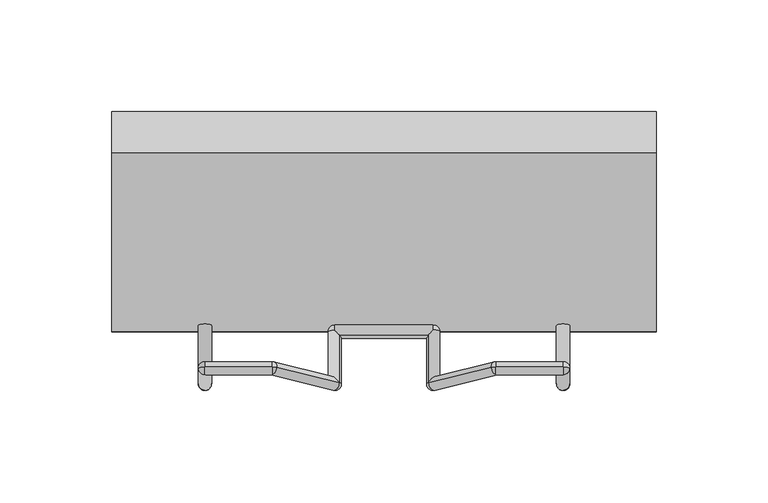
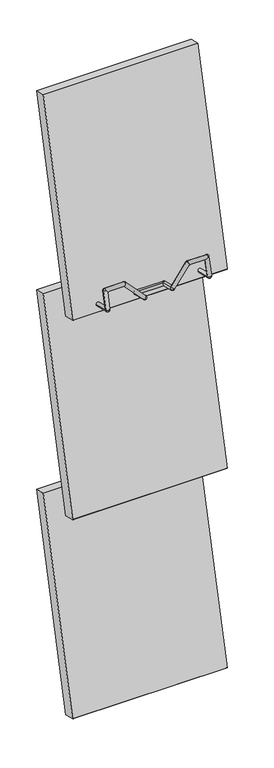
"""IFC4 building model written with IfcOpenShell, lengths in millimetres: furniture geometry, BK Library - Mag-Mag - 1110 - 1 Collum : BK Library - Mag-Mag - 1110 - 1 Collum."""

from ifc_helpers import new_model, si_unit, point, frame, frame_2d, origin, place, context, project, spatial, polyline, circle_curve, ellipse_curve, trimmed, segment, composite_curve, outline, extrude, source, transform, mapped, element, save
from ifc_brep_helpers import plane_surface, cylinder_surface, revolved_surface, advanced_brep


def furniture_2ce81791(model_context):
    return source(origin(), model_context, "Body", "SolidModel", [
        advanced_brep(
        [(-79.9995394, -261.9406341, 782.0660528), (-79.9995394, -264.144767, 785.6912146), (-82.9995394, -261.2301197, 784.9807002), (-82.9995394, -254.3618134, 813.1556247), (-79.9995394, -253.651299, 816.070272), (-79.9995394, -251.4471661, 812.4451102), (-50.0045138, -253.651299, 816.070272), (-47.8464944, -253.8682486, 815.1803088), (-50.0045138, -251.4471661, 812.4451102), (-21.9995394, -264.144767, 785.6912146), (-19.9155642, -261.741221, 782.8840783), (-19.84152, -260.7365549, 787.0053844), (-24.9995394, -237.9129408, 779.2965847), (-21.9995394, -234.9982934, 778.5860702), (-21.9995394, -236.3098837, 776.7607992), (-21.9995394, -238.6234552, 776.3819373), (-24.1575588, -238.4065056, 777.2719005), (22.0004606, -234.9982934, 778.5860702), (25.0004606, -237.9129408, 779.2965847), (24.15848, -238.4065056, 777.2719005), (22.0004606, -238.6234552, 776.3819373), (22.0004606, -236.3098837, 776.7607992), (19.9164855, -261.741221, 782.8840783), (22.0004606, -264.144767, 785.6912146), (19.8424412, -260.7365549, 787.0053844), (47.8474157, -253.8682486, 815.1803088), (50.0054351, -253.651299, 816.070272), (50.0054351, -251.4471661, 812.4451102), (80.0004606, -253.651299, 816.070272), (83.0004606, -254.3618134, 813.1556247), (80.0004606, -251.4471661, 812.4451102), (80.0004606, -264.144767, 785.6912146), (80.0004606, -261.9406341, 782.0660528), (83.0004606, -261.2301197, 784.9807002), (-82.9995394, -225.2828022, 776.2176888), (-76.9995394, -225.2828022, 776.2176888), (-76.9995394, -261.2301197, 784.9807002), (-76.9995394, -255.0723279, 810.2409773), (-79.9995394, -257.2764608, 813.8661391), (-51.2779383, -255.0723279, 810.2409773), (-50.0045138, -257.2764608, 813.8661391), (-24.1575588, -261.7236845, 782.956016), (-19.84152, -239.5159978, 781.8323702), (19.8424412, -239.5159978, 781.8323702), (24.15848, -261.7236845, 782.956016), (51.2788596, -255.0723279, 810.2409773), (50.0054351, -257.2764608, 813.8661391), (77.0004606, -255.0723279, 810.2409773), (80.0004606, -257.2764608, 813.8661391), (77.0004606, -261.2301197, 784.9807002), (83.0004606, -225.2828022, 776.2176888), (77.0004606, -225.2828022, 776.2176888), (22.0004606, -237.2024264, 782.211232), (-21.9995394, -237.2024264, 782.211232)],
        [
            (0, 1, circle_curve(frame((-79.9995394, -261.2301197, 784.9807002), z_axis=(-1.0, 0.0, 0.0), x_axis=(0.0, 0.23683814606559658, 0.9715491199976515)), 3.0)),
            (1, 2, circle_curve(frame((-79.9995394, -261.2301197, 784.9807002), z_axis=(0.0, -0.23683814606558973, -0.9715491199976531), x_axis=(0.0, -0.9715491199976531, 0.23683814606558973)), 3.0)),
            (2, 0, circle_curve(frame((-79.9995394, -261.2301197, 784.9807002), z_axis=(0.0, -0.9715491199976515, 0.2368381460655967), x_axis=(0.0, -0.2368381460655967, -0.9715491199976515)), 3.0)),
            (3, 4, circle_curve(frame((-79.9995394, -254.3618134, 813.1556247), z_axis=(0.0, 0.971549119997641, -0.23683814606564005), x_axis=(1.0, 0.0, 0.0)), 3.0)),
            (4, 5, circle_curve(frame((-79.9995394, -254.3618134, 813.1556247), z_axis=(-1.0, 0.0, 0.0), x_axis=(0.0, 0.23683814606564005, 0.971549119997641)), 3.0)),
            (5, 3, circle_curve(frame((-79.9995394, -254.3618134, 813.1556247), z_axis=(0.0, 0.23683814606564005, 0.971549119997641), x_axis=(-1.0, 0.0, 0.0)), 3.0)),
            (6, 7, circle_curve(frame((-50.0045138, -254.3618134, 813.1556247), z_axis=(0.0, 0.971549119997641, -0.23683814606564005), x_axis=(0.0, -0.23683814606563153, -0.971549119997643)), 3.0)),
            (7, 8, circle_curve(frame((-50.0045138, -254.3618134, 813.1556247), z_axis=(-0.6946583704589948, 0.17036710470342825, 0.6988739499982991), x_axis=(0.7193398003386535, 0.16452160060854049, 0.6748947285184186)), 3.0)),
            (8, 6, circle_curve(frame((-50.0045138, -254.3618134, 813.1556247), z_axis=(1.0, 0.0, 0.0), x_axis=(0.0, 0.23683814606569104, 0.9715491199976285)), 3.0)),
            (9, 10, circle_curve(frame((-21.9995394, -261.2301197, 784.9807002), z_axis=(0.7193398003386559, 0.16452160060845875, 0.6748947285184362), x_axis=(0.0, 0.971549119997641, -0.23683814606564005)), 3.0)),
            (10, 11, circle_curve(frame((-21.9995394, -261.2301197, 784.9807002), z_axis=(0.0, -0.9715491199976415, 0.2368381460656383), x_axis=(0.6946583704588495, -0.17036710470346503, -0.6988739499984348)), 3.0)),
            (11, 9, circle_curve(frame((-21.9995394, -261.2301197, 784.9807002), z_axis=(0.6946583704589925, -0.17036710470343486, -0.6988739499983), x_axis=(0.0, -0.9715491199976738, 0.2368381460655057)), 3.0)),
            (12, 13, circle_curve(frame((-21.9995394, -237.9129408, 779.2965847), z_axis=(0.0, -0.23683814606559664, -0.9715491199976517), x_axis=(-1.0, 0.0, 0.0)), 3.0)),
            (13, 14, circle_curve(frame((-21.9995394, -237.9129408, 779.2965847), z_axis=(-1.0, 0.0, 0.0), x_axis=(0.0, 0.9715491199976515, -0.23683814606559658)), 3.0)),
            (14, 15, circle_curve(frame((-21.9995394, -237.9129408, 779.2965847), z_axis=(-1.0, 0.0, 0.0), x_axis=(0.0, 0.9715491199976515, -0.23683814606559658)), 3.0)),
            (15, 16, circle_curve(frame((-21.9995394, -237.9129408, 779.2965847), z_axis=(0.0, 0.9715491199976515, -0.23683814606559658), x_axis=(-1.0, 0.0, 0.0)), 3.0)),
            (16, 12, circle_curve(frame((-21.9995394, -237.9129408, 779.2965847), z_axis=(0.0, 0.9715491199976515, -0.23683814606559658), x_axis=(-1.0, 0.0, 0.0)), 3.0)),
            (17, 18, circle_curve(frame((22.0004606, -237.9129408, 779.2965847), z_axis=(0.0, -0.23683814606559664, -0.9715491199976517), x_axis=(0.0, -0.971549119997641, 0.23683814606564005)), 3.0)),
            (18, 19, circle_curve(frame((22.0004606, -237.9129408, 779.2965847), z_axis=(0.0, 0.971549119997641, -0.23683814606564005), x_axis=(1.0, 0.0, 0.0)), 3.0)),
            (19, 20, circle_curve(frame((22.0004606, -237.9129408, 779.2965847), z_axis=(0.0, 0.971549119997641, -0.23683814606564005), x_axis=(1.0, 0.0, 0.0)), 3.0)),
            (20, 21, circle_curve(frame((22.0004606, -237.9129408, 779.2965847), z_axis=(1.0, 0.0, 0.0), x_axis=(0.0, 0.9715491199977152, -0.23683814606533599)), 3.0)),
            (21, 17, circle_curve(frame((22.0004606, -237.9129408, 779.2965847), z_axis=(1.0, 0.0, 0.0), x_axis=(0.0, 0.9715491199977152, -0.23683814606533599)), 3.0)),
            (22, 23, circle_curve(frame((22.0004606, -261.2301197, 784.9807002), z_axis=(-0.7193398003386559, 0.16452160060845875, 0.6748947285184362), x_axis=(-0.6946583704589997, -0.17036710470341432, -0.6988739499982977)), 3.0)),
            (23, 24, circle_curve(frame((22.0004606, -261.2301197, 784.9807002), z_axis=(-0.6946583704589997, -0.17036710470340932, -0.6988739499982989), x_axis=(0.0, -0.9715491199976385, 0.23683814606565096)), 3.0)),
            (24, 22, circle_curve(frame((22.0004606, -261.2301197, 784.9807002), z_axis=(-3.5409316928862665e-11, -0.9715491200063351, 0.23683814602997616), x_axis=(-0.6946583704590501, -0.1703671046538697, -0.6988739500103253)), 3.0)),
            (25, 26, circle_curve(frame((50.0054351, -254.3618134, 813.1556247), z_axis=(0.0, 0.971549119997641, -0.23683814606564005), x_axis=(-0.7193398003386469, 0.16452160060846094, 0.6748947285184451)), 3.0)),
            (26, 27, circle_curve(frame((50.0054351, -254.3618134, 813.1556247), z_axis=(-1.0, 0.0, 0.0), x_axis=(0.0, 0.2368381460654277, 0.9715491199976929)), 3.0)),
            (27, 25, circle_curve(frame((50.0054351, -254.3618134, 813.1556247), z_axis=(0.6946583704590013, 0.17036710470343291, 0.6988739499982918), x_axis=(-0.7193398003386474, 0.16452160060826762, 0.6748947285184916)), 3.0)),
            (28, 29, circle_curve(frame((80.0004606, -254.3618134, 813.1556247), z_axis=(0.0, 0.971549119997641, -0.23683814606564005), x_axis=(0.0, 0.23683814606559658, 0.9715491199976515)), 3.0)),
            (29, 30, circle_curve(frame((80.0004606, -254.3618134, 813.1556247), z_axis=(0.0, 0.23683814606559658, 0.9715491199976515), x_axis=(1.0, 0.0, 0.0)), 3.0)),
            (30, 28, circle_curve(frame((80.0004606, -254.3618134, 813.1556247), z_axis=(1.0, 0.0, -2.6767436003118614e-12), x_axis=(2.7551294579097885e-12, 0.23683814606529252, 0.9715491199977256)), 3.0)),
            (31, 32, circle_curve(frame((80.0004606, -261.2301197, 784.9807002), z_axis=(1.0, 0.0, 0.0), x_axis=(0.0, -0.971549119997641, 0.23683814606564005)), 3.0)),
            (32, 33, circle_curve(frame((80.0004606, -261.2301197, 784.9807002), z_axis=(0.0, -0.9715491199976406, 0.23683814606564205), x_axis=(0.0, -0.23683814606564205, -0.9715491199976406)), 3.0)),
            (33, 31, circle_curve(frame((80.0004606, -261.2301197, 784.9807002), z_axis=(0.0, -0.2368381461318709, -0.9715491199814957), x_axis=(0.0, -0.9715491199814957, 0.2368381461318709)), 3.0)),
            (2, 34),
            (34, 35, circle_curve(frame((-79.9995394, -225.2828022, 776.2176888), z_axis=(0.0, -0.9715491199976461, 0.23683814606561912), x_axis=(-1.0, 0.0, 0.0)), 3.0)),
            (35, 36),
            (36, 0, circle_curve(frame((-79.9995394, -261.2301197, 784.9807002), z_axis=(0.0, 0.9715491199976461, -0.23683814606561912), x_axis=(-1.0, 0.0, 0.0)), 3.0)),
            (3, 2),
            (1, 36, circle_curve(frame((-79.9995394, -261.2301197, 784.9807002), z_axis=(0.0, 0.23683814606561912, 0.9715491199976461), x_axis=(-1.0, 0.0, 0.0)), 3.0)),
            (36, 37),
            (37, 38, ellipse_curve(frame((-79.9995394, -254.3618134, 813.1556247), z_axis=(-0.7071067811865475, -0.1674698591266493, -0.6869889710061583), x_axis=(0.7071067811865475, -0.1674698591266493, -0.6869889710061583)), 4.2426407, 3.0)),
            (38, 3, circle_curve(frame((-79.9995394, -254.3618134, 813.1556247), z_axis=(0.0, -0.23683814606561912, -0.9715491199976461), x_axis=(-1.0, 0.0, 0.0)), 3.0)),
            (6, 4),
            (4, 38, circle_curve(frame((-79.9995394, -254.3618134, 813.1556247), z_axis=(1.0, 0.0, 0.0), x_axis=(0.0, 0.23683814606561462, 0.9715491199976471)), 3.0)),
            (37, 39),
            (39, 40, ellipse_curve(frame((-50.0045138, -254.3618134, 813.1556247), z_axis=(-0.9205048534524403, 0.09254003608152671, 0.37961448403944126), x_axis=(-0.3907311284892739, -0.21801066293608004, -0.8943156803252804)), 3.2590811, 3.0)),
            (40, 6, circle_curve(frame((-50.0045138, -254.3618134, 813.1556247), z_axis=(-1.0, 0.0, 0.0), x_axis=(0.0, 0.23683814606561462, 0.9715491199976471)), 3.0)),
            (11, 7),
            (7, 40, circle_curve(frame((-50.0045138, -254.3618134, 813.1556247), z_axis=(0.694658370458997, -0.17036710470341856, -0.6988739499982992), x_axis=(0.7193398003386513, 0.16452160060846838, 0.6748947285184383)), 3.0)),
            (39, 41),
            (41, 9, circle_curve(frame((-21.9995394, -261.2301197, 784.9807002), z_axis=(-0.694658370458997, 0.17036710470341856, 0.6988739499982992), x_axis=(0.7193398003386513, 0.16452160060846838, 0.6748947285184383)), 3.0)),
            (42, 11),
            (10, 41, circle_curve(frame((-21.9995394, -261.2301197, 784.9807002), z_axis=(0.0, 0.9715491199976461, -0.23683814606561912), x_axis=(0.719339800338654, 0.16452160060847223, 0.6748947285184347)), 3.0)),
            (41, 16),
            (15, 42, ellipse_curve(frame((-21.9995394, -237.9129408, 779.2965847), z_axis=(-0.7071067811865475, -0.6869889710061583, 0.1674698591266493), x_axis=(0.7071067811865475, -0.6869889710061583, 0.1674698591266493)), 4.2426407, 3.0)),
            (43, 42),
            (14, 21),
            (20, 43, ellipse_curve(frame((22.0004606, -237.9129408, 779.2965847), z_axis=(-0.7071067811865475, 0.6869889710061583, -0.16746985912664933), x_axis=(-0.7071067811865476, -0.6869889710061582, 0.1674698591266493)), 4.2426407, 3.0)),
            (24, 43),
            (19, 44),
            (44, 22, circle_curve(frame((22.0004606, -261.2301197, 784.9807002), z_axis=(0.0, 0.9715491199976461, -0.23683814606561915), x_axis=(-0.7193398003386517, 0.16452160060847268, 0.6748947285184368)), 3.0)),
            (25, 24),
            (23, 44, circle_curve(frame((22.0004606, -261.2301197, 784.9807002), z_axis=(0.6946583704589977, 0.17036710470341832, 0.6988739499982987), x_axis=(-0.7193398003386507, 0.16452160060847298, 0.674894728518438)), 3.0)),
            (44, 45),
            (45, 46, ellipse_curve(frame((50.0054351, -254.3618134, 813.1556247), z_axis=(-0.9205048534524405, -0.09254003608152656, -0.37961448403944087), x_axis=(0.3907311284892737, -0.21801066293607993, -0.8943156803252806)), 3.2590811, 3.0)),
            (46, 25, circle_curve(frame((50.0054351, -254.3618134, 813.1556247), z_axis=(-0.6946583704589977, -0.17036710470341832, -0.6988739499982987), x_axis=(-0.7193398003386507, 0.16452160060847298, 0.674894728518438)), 3.0)),
            (28, 26),
            (26, 46, circle_curve(frame((50.0054351, -254.3618134, 813.1556247), z_axis=(1.0, 0.0, 0.0), x_axis=(0.0, 0.236838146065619, 0.9715491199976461)), 3.0)),
            (45, 47),
            (47, 48, ellipse_curve(frame((80.0004606, -254.3618134, 813.1556247), z_axis=(-0.7071067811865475, 0.1674698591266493, 0.6869889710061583), x_axis=(-0.7071067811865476, -0.16746985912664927, -0.6869889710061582)), 4.2426407, 3.0)),
            (48, 28, circle_curve(frame((80.0004606, -254.3618134, 813.1556247), z_axis=(-1.0, 0.0, 0.0), x_axis=(0.0, 0.236838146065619, 0.9715491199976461)), 3.0)),
            (33, 29),
            (29, 48, circle_curve(frame((80.0004606, -254.3618134, 813.1556247), z_axis=(0.0, -0.23683814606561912, -0.9715491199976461), x_axis=(1.0, 0.0, 0.0)), 3.0)),
            (47, 49),
            (49, 31, circle_curve(frame((80.0004606, -261.2301197, 784.9807002), z_axis=(0.0, 0.23683814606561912, 0.9715491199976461), x_axis=(1.0, 0.0, 0.0)), 3.0)),
            (50, 33),
            (32, 49, circle_curve(frame((80.0004606, -261.2301197, 784.9807002), z_axis=(0.0, 0.9715491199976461, -0.23683814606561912), x_axis=(1.0, 0.0, 0.0)), 3.0)),
            (49, 51),
            (51, 50, circle_curve(frame((80.0004606, -225.2828022, 776.2176888), z_axis=(0.0, -0.9715491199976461, 0.23683814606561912), x_axis=(1.0, 0.0, 0.0)), 3.0)),
            (51, 50, circle_curve(frame((80.0004606, -225.2828022, 776.2176888), z_axis=(0.0, 0.9715491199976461, -0.23683814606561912), x_axis=(1.0, 0.0, 0.0)), 3.0)),
            (49, 33, ellipse_curve(frame((80.0004606, -261.2301197, 784.9807002), z_axis=(0.0, 0.5195191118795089, -0.8544588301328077), x_axis=(0.0, -0.8544588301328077, -0.5195191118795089)), 4.2426407, 3.0)),
            (47, 30, ellipse_curve(frame((80.0004606, -254.3618134, 813.1556247), z_axis=(0.7071067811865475, -0.1674698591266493, -0.6869889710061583), x_axis=(0.7071067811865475, 0.1674698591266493, 0.6869889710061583)), 4.2426407, 3.0)),
            (45, 27, ellipse_curve(frame((50.0054351, -254.3618134, 813.1556247), z_axis=(0.9205048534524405, 0.09254003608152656, 0.37961448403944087), x_axis=(-0.39073112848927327, 0.21801066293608, 0.894315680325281)), 3.2590811, 3.0)),
            (44, 24, ellipse_curve(frame((22.0004606, -261.2301197, 784.9807002), z_axis=(0.49119764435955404, -0.5665212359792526, 0.6616483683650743), x_axis=(-0.4911976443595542, -0.8074567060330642, -0.3267086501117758)), 4.2426407, 3.0)),
            (18, 52, circle_curve(frame((22.0004606, -237.9129408, 779.2965847), z_axis=(0.0, -0.9715491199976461, 0.23683814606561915), x_axis=(-0.7193398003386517, 0.16452160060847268, 0.6748947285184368)), 3.0)),
            (52, 43, ellipse_curve(frame((22.0004606, -237.9129408, 779.2965847), z_axis=(0.7071067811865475, -0.6869889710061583, 0.16746985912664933), x_axis=(0.7071067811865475, 0.6869889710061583, -0.16746985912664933)), 4.2426407, 3.0)),
            (17, 52, circle_curve(frame((22.0004606, -237.9129408, 779.2965847), z_axis=(1.0, 0.0, 0.0), x_axis=(0.0, 0.9715491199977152, -0.23683814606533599)), 3.0)),
            (13, 53, circle_curve(frame((-21.9995394, -237.9129408, 779.2965847), z_axis=(1.0, 0.0, 0.0), x_axis=(0.0, -0.534352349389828, 0.8452618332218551)), 3.0)),
            (53, 42, ellipse_curve(frame((-21.9995394, -237.9129408, 779.2965847), z_axis=(0.7071067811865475, 0.6869889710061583, -0.1674698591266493), x_axis=(-0.7071067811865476, 0.6869889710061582, -0.16746985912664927)), 4.2426407, 3.0)),
            (12, 53, circle_curve(frame((-21.9995394, -237.9129408, 779.2965847), z_axis=(0.0, 0.9715491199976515, -0.23683814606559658), x_axis=(-1.0, 0.0, 0.0)), 3.0)),
            (41, 11, ellipse_curve(frame((-21.9995394, -261.2301197, 784.9807002), z_axis=(0.49119764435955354, 0.5665212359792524, -0.6616483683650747), x_axis=(0.4911976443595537, -0.8074567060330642, -0.32670865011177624)), 4.2426407, 3.0)),
            (39, 8, ellipse_curve(frame((-50.0045138, -254.3618134, 813.1556247), z_axis=(0.9205048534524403, -0.09254003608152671, -0.37961448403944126), x_axis=(0.3907311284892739, 0.21801066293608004, 0.8943156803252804)), 3.2590811, 3.0)),
            (37, 5, ellipse_curve(frame((-79.9995394, -254.3618134, 813.1556247), z_axis=(0.7071067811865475, 0.1674698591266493, 0.6869889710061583), x_axis=(-0.7071067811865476, 0.16746985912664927, 0.6869889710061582)), 4.2426407, 3.0)),
            (36, 2, ellipse_curve(frame((-79.9995394, -261.2301197, 784.9807002), z_axis=(0.0, -0.5195191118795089, 0.8544588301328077), x_axis=(0.0, -0.8544588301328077, -0.5195191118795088)), 4.2426407, 3.0)),
            (35, 34, circle_curve(frame((-79.9995394, -225.2828022, 776.2176888), z_axis=(0.0, -0.9715491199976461, 0.23683814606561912), x_axis=(-1.0, 0.0, 0.0)), 3.0)),
        ],
        [
            revolved_surface(trimmed(ellipse_curve(frame((-79.9995394, -261.2301197, 784.9807002), z_axis=(0.0, -0.9715491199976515, 0.23683814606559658), x_axis=(0.0, 0.23683814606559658, 0.9715491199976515)), 3.0, 3.0), [point((-79.9995394, -260.5196052, 787.8953475))], [point((-82.9995394, -261.2301197, 784.9807002))], True, "CARTESIAN"), (-79.9995394, -261.2301197, 784.9807002), (-1.0, 0.0, 0.0)),
            revolved_surface(trimmed(ellipse_curve(frame((-79.9995394, -254.3618134, 813.1556247), z_axis=(0.0, 0.23683814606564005, 0.971549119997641), x_axis=(1.0, 0.0, 0.0)), 3.0, 3.0), [point((-76.9995394, -254.3618134, 813.1556247))], [point((-79.9995394, -251.4471661, 812.4451102))], True, "CARTESIAN"), (-79.9995394, -254.3618134, 813.1556247), (0.0, 0.971549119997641, -0.23683814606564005)),
            revolved_surface(trimmed(ellipse_curve(frame((-50.0045138, -254.3618134, 813.1556247), z_axis=(1.0, 0.0, 0.0), x_axis=(0.0, -0.23683814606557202, -0.9715491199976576)), 3.0, 3.0), [point((-50.0045138, -255.0723279, 810.2409773))], [point((-50.0045138, -251.4471661, 812.4451102))], True, "CARTESIAN"), (-50.0045138, -254.3618134, 813.1556247), (0.0, 0.971549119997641, -0.23683814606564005)),
            revolved_surface(trimmed(ellipse_curve(frame((-21.9995394, -261.2301197, 784.9807002), z_axis=(0.6946583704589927, -0.1703671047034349, -0.6988739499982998), x_axis=(0.0, 0.9715491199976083, -0.23683814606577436)), 3.0, 3.0), [point((-21.9995394, -258.3154723, 784.2701857))], [point((-19.84152, -260.7365549, 787.0053844))], True, "CARTESIAN"), (-21.9995394, -261.2301197, 784.9807002), (0.7193398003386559, 0.16452160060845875, 0.6748947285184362)),
            revolved_surface(trimmed(ellipse_curve(frame((-21.9995394, -237.9129408, 779.2965847), z_axis=(0.0, -0.9715491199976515, 0.23683814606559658), x_axis=(-1.0, 0.0, 0.0)), 3.0, 3.0), [point((-24.9995394, -237.9129408, 779.2965847))], [point((-21.9995394, -238.6234552, 776.3819373))], True, "CARTESIAN"), (-21.9995394, -237.9129408, 779.2965847), (0.0, -0.23683814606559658, -0.9715491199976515)),
            revolved_surface(trimmed(ellipse_curve(frame((22.0004606, -237.9129408, 779.2965847), z_axis=(1.0, 0.0, 0.0), x_axis=(0.0, -0.9715491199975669, 0.2368381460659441)), 3.0, 3.0), [point((22.0004606, -240.8275882, 780.0070991))], [point((22.0004606, -238.6234552, 776.3819373))], True, "CARTESIAN"), (22.0004606, -237.9129408, 779.2965847), (0.0, -0.23683814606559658, -0.9715491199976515)),
            revolved_surface(trimmed(ellipse_curve(frame((22.0004606, -261.2301197, 784.9807002), z_axis=(0.0, 0.9715491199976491, -0.23683814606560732), x_axis=(-0.6946583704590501, -0.17036710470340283, -0.6988739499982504)), 3.0, 3.0), [point((19.9164855, -261.741221, 782.8840783))], [point((19.8424412, -260.7365549, 787.0053844))], True, "CARTESIAN"), (22.0004606, -261.2301197, 784.9807002), (-0.7193398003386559, 0.16452160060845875, 0.6748947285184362)),
            revolved_surface(trimmed(ellipse_curve(frame((50.0054351, -254.3618134, 813.1556247), z_axis=(-0.6946583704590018, -0.17036710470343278, -0.6988739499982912), x_axis=(-0.7193398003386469, 0.16452160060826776, 0.6748947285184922)), 3.0, 3.0), [point((47.8474157, -253.8682486, 815.1803088))], [point((50.0054351, -251.4471661, 812.4451102))], True, "CARTESIAN"), (50.0054351, -254.3618134, 813.1556247), (0.0, 0.971549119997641, -0.23683814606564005)),
            revolved_surface(trimmed(ellipse_curve(frame((80.0004606, -254.3618134, 813.1556247), z_axis=(-1.0, 0.0, 0.0), x_axis=(0.0, 0.23683814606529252, 0.9715491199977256)), 3.0, 3.0), [point((80.0004606, -253.651299, 816.070272))], [point((80.0004606, -251.4471661, 812.4451102))], True, "CARTESIAN"), (80.0004606, -254.3618134, 813.1556247), (0.0, 0.971549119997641, -0.23683814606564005)),
            revolved_surface(trimmed(ellipse_curve(frame((80.0004606, -261.2301197, 784.9807002), z_axis=(0.0, 0.23683814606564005, 0.971549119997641), x_axis=(0.0, -0.971549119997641, 0.23683814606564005)), 3.0, 3.0), [point((80.0004606, -264.144767, 785.6912146))], [point((83.0004606, -261.2301197, 784.9807002))], True, "CARTESIAN"), (80.0004606, -261.2301197, 784.9807002), (1.0, 0.0, 0.0)),
            cylinder_surface(frame((-79.9995394, -225.2828022, 776.2176888), z_axis=(0.0, 0.9715491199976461, -0.23683814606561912), x_axis=(-1.0, 0.0, 0.0)), 3.0),
            cylinder_surface(frame((-79.9995394, -261.2301197, 784.9807002), z_axis=(0.0, -0.23683814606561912, -0.9715491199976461), x_axis=(-1.0, 0.0, 0.0)), 3.0),
            cylinder_surface(frame((-79.9995394, -254.3618134, 813.1556247), z_axis=(-1.0, 0.0, 0.0), x_axis=(0.0, 0.23683814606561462, 0.9715491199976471)), 3.0),
            cylinder_surface(frame((-50.0045138, -254.3618134, 813.1556247), z_axis=(-0.694658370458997, 0.17036710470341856, 0.6988739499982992), x_axis=(0.7193398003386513, 0.16452160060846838, 0.6748947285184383)), 3.0),
            cylinder_surface(frame((-21.9995394, -261.2301197, 784.9807002), z_axis=(0.0, -0.9715491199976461, 0.23683814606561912), x_axis=(0.719339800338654, 0.16452160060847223, 0.6748947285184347)), 3.0),
            cylinder_surface(frame((-21.9995394, -237.9129408, 779.2965847), z_axis=(-1.0, 0.0, 0.0), x_axis=(0.0, -0.534352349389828, 0.8452618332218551)), 3.0),
            cylinder_surface(frame((22.0004606, -237.9129408, 779.2965847), z_axis=(0.0, 0.9715491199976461, -0.23683814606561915), x_axis=(-0.7193398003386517, 0.16452160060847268, 0.6748947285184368)), 3.0),
            cylinder_surface(frame((22.0004606, -261.2301197, 784.9807002), z_axis=(-0.6946583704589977, -0.17036710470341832, -0.6988739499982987), x_axis=(-0.7193398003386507, 0.16452160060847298, 0.674894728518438)), 3.0),
            cylinder_surface(frame((50.0054351, -254.3618134, 813.1556247), z_axis=(-1.0, 0.0, 0.0), x_axis=(0.0, 0.236838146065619, 0.9715491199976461)), 3.0),
            cylinder_surface(frame((80.0004606, -254.3618134, 813.1556247), z_axis=(0.0, 0.23683814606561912, 0.9715491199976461), x_axis=(1.0, 0.0, 0.0)), 3.0),
            cylinder_surface(frame((80.0004606, -261.2301197, 784.9807002), z_axis=(0.0, -0.9715491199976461, 0.23683814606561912), x_axis=(1.0, 0.0, 0.0)), 3.0),
            plane_surface(frame((80.0004606, -225.2828022, 776.2176888), z_axis=(0.0, 0.9715491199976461, -0.23683814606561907), x_axis=(0.0, 0.23683814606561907, 0.9715491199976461))),
            revolved_surface(trimmed(ellipse_curve(frame((80.0004606, -261.2301197, 784.9807002), z_axis=(0.0, 0.23683814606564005, 0.971549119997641), x_axis=(0.0, -0.971549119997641, 0.23683814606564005)), 3.0, 3.0), [point((77.0004606, -261.2301197, 784.9807002))], [point((80.0004606, -264.144767, 785.6912146))], True, "CARTESIAN"), (80.0004606, -261.2301197, 784.9807002), (1.0, 0.0, 0.0)),
            revolved_surface(trimmed(ellipse_curve(frame((80.0004606, -254.3618134, 813.1556247), z_axis=(-1.0, 0.0, 0.0), x_axis=(0.0, 0.23683814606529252, 0.9715491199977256)), 3.0, 3.0), [point((80.0004606, -257.2764608, 813.8661391))], [point((80.0004606, -253.651299, 816.070272))], True, "CARTESIAN"), (80.0004606, -254.3618134, 813.1556247), (0.0, 0.971549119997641, -0.23683814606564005)),
            revolved_surface(trimmed(ellipse_curve(frame((50.0054351, -254.3618134, 813.1556247), z_axis=(-0.6946583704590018, -0.17036710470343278, -0.6988739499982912), x_axis=(-0.7193398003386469, 0.16452160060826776, 0.6748947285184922)), 3.0, 3.0), [point((50.0054351, -257.2764608, 813.8661391))], [point((47.8474157, -253.8682486, 815.1803088))], True, "CARTESIAN"), (50.0054351, -254.3618134, 813.1556247), (0.0, 0.971549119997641, -0.23683814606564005)),
            revolved_surface(trimmed(ellipse_curve(frame((22.0004606, -261.2301197, 784.9807002), z_axis=(0.0, 0.9715491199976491, -0.23683814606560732), x_axis=(-0.6946583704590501, -0.17036710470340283, -0.6988739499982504)), 3.0, 3.0), [point((24.15848, -261.7236845, 782.956016))], [point((19.9164855, -261.741221, 782.8840783))], True, "CARTESIAN"), (22.0004606, -261.2301197, 784.9807002), (-0.7193398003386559, 0.16452160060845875, 0.6748947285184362)),
            revolved_surface(trimmed(ellipse_curve(frame((22.0004606, -237.9129408, 779.2965847), z_axis=(1.0, 0.0, 0.0), x_axis=(0.0, -0.9715491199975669, 0.2368381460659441)), 3.0, 3.0), [point((22.0004606, -237.2024264, 782.211232))], [point((22.0004606, -240.8275882, 780.0070991))], True, "CARTESIAN"), (22.0004606, -237.9129408, 779.2965847), (0.0, -0.23683814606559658, -0.9715491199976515)),
            revolved_surface(trimmed(ellipse_curve(frame((-21.9995394, -237.9129408, 779.2965847), z_axis=(0.0, -0.9715491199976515, 0.23683814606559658), x_axis=(-1.0, 0.0, 0.0)), 3.0, 3.0), [point((-21.9995394, -237.2024264, 782.211232))], [point((-24.9995394, -237.9129408, 779.2965847))], True, "CARTESIAN"), (-21.9995394, -237.9129408, 779.2965847), (0.0, -0.23683814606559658, -0.9715491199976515)),
            revolved_surface(trimmed(ellipse_curve(frame((-21.9995394, -261.2301197, 784.9807002), z_axis=(0.6946583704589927, -0.1703671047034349, -0.6988739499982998), x_axis=(0.0, 0.9715491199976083, -0.23683814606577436)), 3.0, 3.0), [point((-24.1575588, -261.7236845, 782.956016))], [point((-21.9995394, -258.3154723, 784.2701857))], True, "CARTESIAN"), (-21.9995394, -261.2301197, 784.9807002), (0.7193398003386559, 0.16452160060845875, 0.6748947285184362)),
            revolved_surface(trimmed(ellipse_curve(frame((-50.0045138, -254.3618134, 813.1556247), z_axis=(1.0, 0.0, 0.0), x_axis=(0.0, -0.23683814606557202, -0.9715491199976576)), 3.0, 3.0), [point((-50.0045138, -257.2764608, 813.8661391))], [point((-50.0045138, -255.0723279, 810.2409773))], True, "CARTESIAN"), (-50.0045138, -254.3618134, 813.1556247), (0.0, 0.971549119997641, -0.23683814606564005)),
            revolved_surface(trimmed(ellipse_curve(frame((-79.9995394, -254.3618134, 813.1556247), z_axis=(0.0, 0.23683814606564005, 0.971549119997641), x_axis=(1.0, 0.0, 0.0)), 3.0, 3.0), [point((-79.9995394, -257.2764608, 813.8661391))], [point((-76.9995394, -254.3618134, 813.1556247))], True, "CARTESIAN"), (-79.9995394, -254.3618134, 813.1556247), (0.0, 0.971549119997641, -0.23683814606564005)),
            revolved_surface(trimmed(ellipse_curve(frame((-79.9995394, -261.2301197, 784.9807002), z_axis=(0.0, -0.9715491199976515, 0.23683814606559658), x_axis=(0.0, 0.23683814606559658, 0.9715491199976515)), 3.0, 3.0), [point((-76.9995394, -261.2301197, 784.9807002))], [point((-79.9995394, -260.5196052, 787.8953475))], True, "CARTESIAN"), (-79.9995394, -261.2301197, 784.9807002), (-1.0, 0.0, 0.0)),
            plane_surface(frame((-79.9995394, -225.2828022, 776.2176888), z_axis=(0.0, 0.9715491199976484, -0.23683814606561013), x_axis=(0.0, 0.23683814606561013, 0.9715491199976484))),
        ],
        [
            (0, [[1, 2, 3]]),
            (1, [[4, 5, 6]]),
            (2, [[7, 8, 9]]),
            (3, [[10, 11, 12]]),
            (4, [[13, 14, 15, 16, 17]]),
            (5, [[18, 19, 20, 21, 22]]),
            (6, [[23, 24, 25]]),
            (7, [[26, 27, 28]]),
            (8, [[29, 30, 31]]),
            (9, [[32, 33, 34]]),
            (10, [[35, 36, 37, 38, -3]]),
            (11, [[39, -2, 40, 41, 42, 43]]),
            (12, [[44, 45, -42, 46, 47, 48]]),
            (13, [[49, 50, -47, 51, 52, -12]]),
            (14, [[53, -11, 54, 55, -16, 56]]),
            (15, [[57, -56, -15, 58, -21, 59]]),
            (16, [[60, -59, -20, 61, 62, -25]]),
            (17, [[63, -24, 64, 65, 66, 67]]),
            (18, [[68, 69, -66, 70, 71, 72]]),
            (19, [[73, 74, -71, 75, 76, -34]]),
            (20, [[77, -33, 78, 79, 80]]),
            (21, [[-80, 81]]),
            (22, [[-32, -76, -78]]),
            (20, [[-77, -81, -79, 82]]),
            (19, [[-73, -82, -75, 83, -30]]),
            (23, [[-29, -72, -74]]),
            (18, [[-68, -31, -83, -70, 84, -27]]),
            (24, [[-26, -67, -69]]),
            (17, [[-63, -28, -84, -65, 85]]),
            (25, [[-23, -62, -64]]),
            (16, [[-60, -85, -61, -19, 86, 87]]),
            (26, [[-18, 88, -86]]),
            (15, [[-57, -87, -88, -22, -58, -14, 89, 90]]),
            (27, [[-13, 91, -89]]),
            (14, [[-53, -90, -91, -17, -55, 92]]),
            (28, [[-10, -52, -54]]),
            (13, [[-49, -92, -51, 93, -8]]),
            (29, [[-7, -48, -50]]),
            (12, [[-44, -9, -93, -46, 94, -5]]),
            (30, [[-4, -43, -45]]),
            (11, [[-39, -6, -94, -41, 95]]),
            (31, [[-1, -38, -40]]),
            (10, [[-35, -95, -37, 96]]),
            (32, [[-36, -96]]),
        ],
    ),
        extrude(outline(composite_curve([segment(polyline([(-158.167246, 431.7596931), (-139.7078127, 427.2597683), (-219.4851448, 100.0), (-237.4588036, 104.3815057)]), True, "CONTINUOUS"), segment(trimmed(circle_curve(frame_2d((-237.3403845, 104.8672803)), 0.5), [point((-237.4588036, 104.3815057))], [point((-237.826159, 104.9856993))], False, "CARTESIAN"), True, "CONTINUOUS"), segment(polyline([(-237.826159, 104.9856993), (-158.167246, 431.7596931)]), True, "CONTINUOUS")], self_intersect=False)), frame((-121.5, 0.0, 0.0), z_axis=(1.0, 0.0, 0.0), x_axis=(0.0, 1.0, 0.0)), (0.0, 0.0, 1.0), 243.0),
        extrude(outline(composite_curve([segment(polyline([(-158.167246, 763.3596931), (-139.7078127, 758.8597683), (-219.4851448, 431.6), (-237.4588036, 435.9815057)]), True, "CONTINUOUS"), segment(trimmed(circle_curve(frame_2d((-237.3403845, 436.4672803)), 0.5), [point((-237.4588036, 435.9815057))], [point((-237.826159, 436.5856993))], False, "CARTESIAN"), True, "CONTINUOUS"), segment(polyline([(-237.826159, 436.5856993), (-158.167246, 763.3596931)]), True, "CONTINUOUS")], self_intersect=False)), frame((-121.5, 0.0, 0.0), z_axis=(1.0, 0.0, 0.0), x_axis=(0.0, 1.0, 0.0)), (0.0, 0.0, 1.0), 243.0),
        extrude(outline(composite_curve([segment(polyline([(-158.167246, 1094.9596931), (-139.7078127, 1090.4597683), (-219.4851448, 763.2), (-237.4588036, 767.5815057)]), True, "CONTINUOUS"), segment(trimmed(circle_curve(frame_2d((-237.3403845, 768.0672803)), 0.5), [point((-237.4588036, 767.5815057))], [point((-237.826159, 768.1856993))], False, "CARTESIAN"), True, "CONTINUOUS"), segment(polyline([(-237.826159, 768.1856993), (-158.167246, 1094.9596931)]), True, "CONTINUOUS")], self_intersect=False)), frame((-121.5, 0.0, 0.0), z_axis=(1.0, 0.0, 0.0), x_axis=(0.0, 1.0, 0.0)), (0.0, 0.0, 1.0), 243.0),
    ])


if __name__ == "__main__":
    model = new_model("IFC4")
    model_context = context("Model", 3, world=origin())
    ifc_project = project(units=[si_unit("LENGTHUNIT", "METRE", prefix="MILLI")], contexts=[model_context])
    site = spatial("IfcSite", under=ifc_project)
    building = spatial("IfcBuilding", under=site)
    placement = place(None, origin())
    furniture_shape = furniture_2ce81791(model_context)
    element("IfcFurniture", 1, ObjectType="BK Library - Mag-Mag - 1110 - 1 Collum : BK Library - Mag-Mag - 1110 - 1 Collum", at=placement, inside=building, context=model_context, shape_type="MappedRepresentation", body=[
        mapped(furniture_shape, transform((0.0, 0.0, 0.0), x_axis=(1.0, 0.0, 0.0), y_axis=(0.0, 1.0, 0.0), z_axis=(0.0, 0.0, 1.0))),
    ])
    save(model, "model.ifc")
